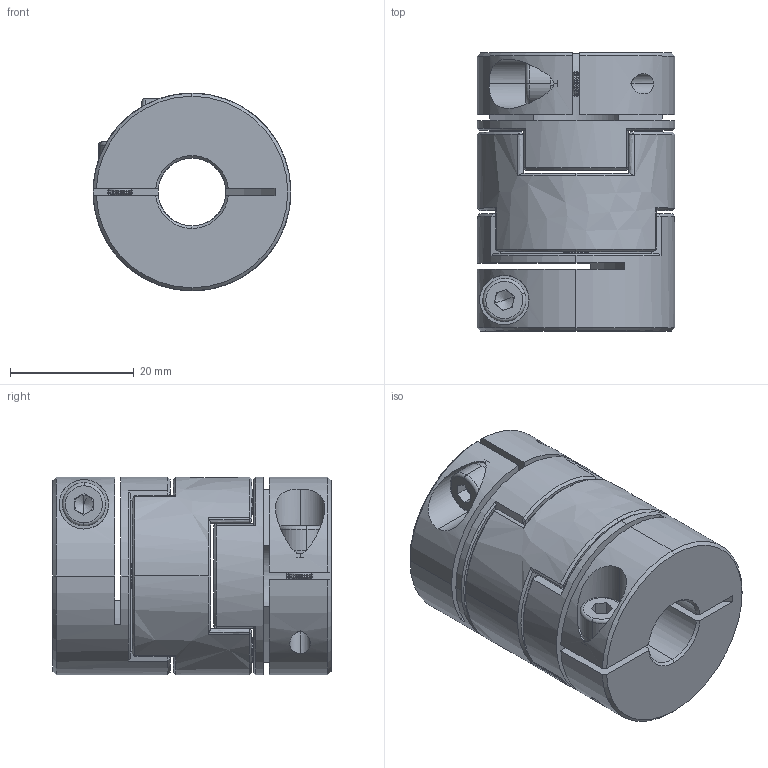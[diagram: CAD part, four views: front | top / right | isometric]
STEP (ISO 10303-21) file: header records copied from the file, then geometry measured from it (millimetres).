
FILE_DESCRIPTION (( 'STEP AP203' ), '1' );
FILE_NAME ('LZ-B-D32L45-11-16.STEP', '2021-10-29T06:47:05', ( '' ), ( '' ), 'SwSTEP 2.0', 'SolidWorks 2018', '' );
FILE_SCHEMA (( 'CONFIG_CONTROL_DESIGN' ));
Length unit declared in the file: millimetre
Products named in the file (1): LZ-B-D32L45-11-16
Bounding box: 32 x 45 x 32 mm (x, y, z)
Volume: 26863.6 mm3; surface area: 13014.7 mm2
Topology: 1 solids, 1 shells, 357 faces, 862 edges, 502 vertices
Faces by surface type: cone 118, cylinder 92, plane 85, bspline 54, torus 8
Entity records: 11209 total; most frequent: CARTESIAN_POINT 3224, ORIENTED_EDGE 1716, DIRECTION 1582, EDGE_CURVE 858, AXIS2_PLACEMENT_3D 620, VERTEX_POINT 502, EDGE_LOOP 382, ADVANCED_FACE 357
